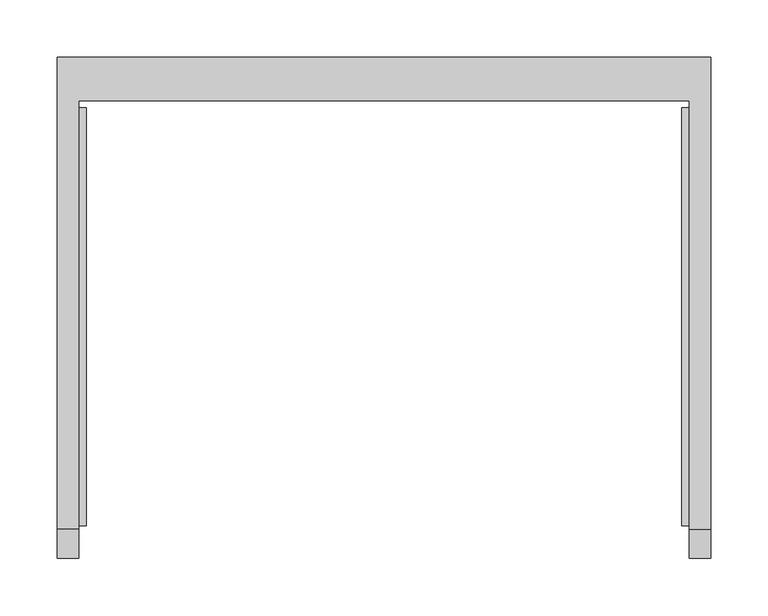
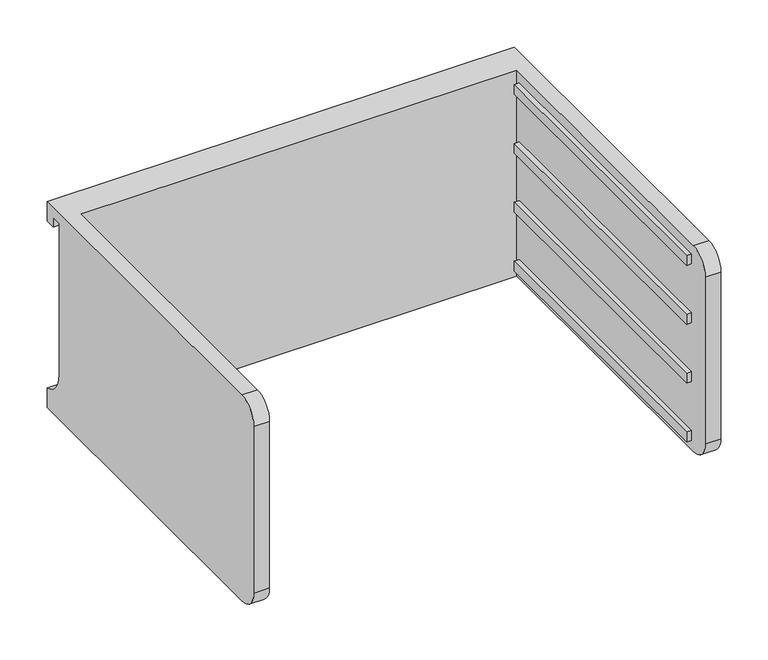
"""IFC4 building model written with IfcOpenShell, lengths in millimetres: furniture geometry, HermanMiller_CoStruc_CO205_CFrame : 10H x 17D x 22W."""

from ifc_helpers import new_model, si_unit, frame, origin, place, context, project, spatial, polyline, circle_curve, outline, extrude, source, transform, mapped, element, save
from ifc_brep_helpers import plane_surface, cylinder_surface, revolved_surface, advanced_brep


def furniture_e68dc01e(model_context):
    return source(origin(), model_context, "Body", "SolidModel", [
        advanced_brep(
        [(-171.7622951, -331.6523397, 800.1), (-171.7622951, -357.0523397, 774.7), (-171.7622951, -357.0523397, 558.8), (-171.7622951, -331.6523397, 533.4), (-171.7622951, 43.0421197, 533.4), (-171.7622951, 43.0421197, 800.1), (-190.8122951, -331.6523397, 533.4), (-190.8122951, -357.0523397, 558.8), (-190.8122951, -357.0523397, 774.7), (-190.8122951, -331.6523397, 800.1), (-190.8122951, 81.0976603, 800.1), (-190.8122951, 81.0976603, 774.7), (-190.8122951, 68.4421197, 774.7), (-190.8122951, 68.4421197, 787.4), (-190.8122951, 55.7421197, 787.4), (-190.8122951, 55.7421197, 591.34502), (-190.8122951, 81.0976603, 558.8), (-190.8122951, 81.0976603, 533.4), (380.6877049, 81.0976603, 533.4), (380.6877049, -331.6523397, 533.4), (361.6377049, -331.6523397, 533.4), (361.6377049, 43.0421197, 533.4), (361.6377049, 43.0421197, 800.1), (361.6377049, -331.6523397, 800.1), (380.6877049, -331.6523397, 800.1), (380.6877049, 81.0976603, 800.1), (380.6877049, 81.0976603, 558.8), (380.6877049, 55.7421197, 591.34502), (380.6877049, 55.7421197, 787.4), (380.6877049, 68.4421197, 787.4), (380.6877049, 68.4421197, 774.7), (380.6877049, 81.0976603, 774.7), (380.6877049, -357.0523397, 774.7), (380.6877049, -357.0523397, 558.8), (361.6377049, -357.0523397, 558.8), (361.6377049, -357.0523397, 774.7)],
        [
            (0, 1, circle_curve(frame((-171.7622951, -331.6523397, 774.7), z_axis=(1.0, 0.0, 0.0), x_axis=(0.0, 0.0, 1.0)), 25.4)),
            (1, 2),
            (2, 3, circle_curve(frame((-171.7622951, -331.6523397, 558.8), z_axis=(1.0, 0.0, 0.0), x_axis=(0.0, 0.0, 1.0)), 25.4)),
            (3, 4),
            (4, 5),
            (5, 0),
            (6, 7, circle_curve(frame((-190.8122951, -331.6523397, 558.8), z_axis=(-1.0, 0.0, 0.0), x_axis=(0.0, 0.0, 1.0)), 25.4)),
            (7, 8),
            (8, 9, circle_curve(frame((-190.8122951, -331.6523397, 774.7), z_axis=(-1.0, 0.0, 0.0), x_axis=(0.0, 0.0, 1.0)), 25.4)),
            (9, 10),
            (10, 11),
            (11, 12),
            (12, 13),
            (13, 14),
            (14, 15),
            (15, 16, circle_curve(frame((-190.8122951, 89.3064162, 591.34502), z_axis=(1.0, 0.0, 0.0), x_axis=(0.0, 0.0, 1.0)), 33.5642965)),
            (16, 17),
            (17, 6),
            (0, 9),
            (8, 1),
            (7, 2),
            (6, 3),
            (17, 18),
            (18, 19),
            (19, 20),
            (20, 21),
            (21, 4),
            (5, 22),
            (22, 23),
            (23, 24),
            (24, 25),
            (25, 10),
            (18, 26),
            (26, 27, circle_curve(frame((380.6877049, 89.3064162, 591.34502), z_axis=(-1.0, 0.0, 0.0), x_axis=(0.0, 0.0, 1.0)), 33.5642965)),
            (27, 28),
            (28, 29),
            (29, 30),
            (30, 31),
            (31, 25),
            (24, 32, circle_curve(frame((380.6877049, -331.6523397, 774.7), z_axis=(1.0, 0.0, 0.0), x_axis=(0.0, 0.0, 1.0)), 25.4)),
            (32, 33),
            (33, 19, circle_curve(frame((380.6877049, -331.6523397, 558.8), z_axis=(1.0, 0.0, 0.0), x_axis=(0.0, 0.0, 1.0)), 25.4)),
            (16, 26),
            (15, 27),
            (14, 28),
            (13, 29),
            (12, 30),
            (11, 31),
            (21, 22),
            (20, 34, circle_curve(frame((361.6377049, -331.6523397, 558.8), z_axis=(-1.0, 0.0, 0.0), x_axis=(0.0, 0.0, 1.0)), 25.4)),
            (34, 35),
            (35, 23, circle_curve(frame((361.6377049, -331.6523397, 774.7), z_axis=(-1.0, 0.0, 0.0), x_axis=(0.0, 0.0, 1.0)), 25.4)),
            (35, 32),
            (34, 33),
        ],
        [
            plane_surface(frame((-171.7622951, -331.6523397, 800.1), z_axis=(1.0, 0.0, 0.0), x_axis=(0.0, -1.0, 0.0))),
            plane_surface(frame((-190.8122951, -331.6523397, 800.1), z_axis=(-1.0, 0.0, 0.0), x_axis=(0.0, 1.0, 0.0))),
            cylinder_surface(frame((-190.8122951, -331.6523397, 774.7), z_axis=(1.0, 0.0, 0.0), x_axis=(0.0, 0.0, 1.0)), 25.4),
            plane_surface(frame((-171.7622951, -357.0523397, 774.7), z_axis=(0.0, -1.0, 0.0), x_axis=(-1.0, 0.0, 0.0))),
            cylinder_surface(frame((-190.8122951, -331.6523397, 558.8), z_axis=(1.0, 0.0, 0.0), x_axis=(0.0, 0.0, 1.0)), 25.4),
            plane_surface(frame((-171.7622951, -331.6523397, 533.4), z_axis=(0.0, 0.0, -1.0), x_axis=(-1.0, 0.0, 0.0))),
            plane_surface(frame((-171.7622951, 43.0421197, 800.1), z_axis=(0.0, 0.0, 1.0), x_axis=(-1.0, 0.0, 0.0))),
            plane_surface(frame((380.6877049, 81.0976603, 558.8), z_axis=(1.0, 0.0, 0.0), x_axis=(0.0, 0.0, 1.0))),
            plane_surface(frame((380.6877049, 81.0976603, 533.4), z_axis=(0.0, 1.0, 0.0), x_axis=(-1.0, 0.0, 0.0))),
            revolved_surface(polyline([(-190.8122951, 89.3064162, 624.9093164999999), (380.68770489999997, 89.3064162, 624.9093164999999)]), (-190.8122951, 89.3064162, 591.34502), (-1.0, 0.0, 0.0)),
            plane_surface(frame((380.6877049, 55.7421197, 591.34502), z_axis=(0.0, 1.0, 0.0), x_axis=(-1.0, 0.0, 0.0))),
            plane_surface(frame((380.6877049, 55.7421197, 787.4), z_axis=(0.0, 0.0, -1.0), x_axis=(-1.0, 0.0, 0.0))),
            plane_surface(frame((380.6877049, 68.4421197, 787.4), z_axis=(0.0, -1.0, 0.0), x_axis=(-1.0, 0.0, 0.0))),
            plane_surface(frame((380.6877049, 68.4421197, 774.7), z_axis=(0.0, 0.0, -1.0), x_axis=(-1.0, 0.0, 0.0))),
            plane_surface(frame((380.6877049, 81.0976603, 774.7), z_axis=(0.0, 1.0, 0.0), x_axis=(-1.0, 0.0, 0.0))),
            plane_surface(frame((380.6877049, 43.0421197, 800.1), z_axis=(0.0, -1.0, 0.0), x_axis=(-1.0, 0.0, 0.0))),
            plane_surface(frame((361.6377049, -331.6523397, 800.1), z_axis=(-1.0, 0.0, 0.0), x_axis=(0.0, 1.0, 0.0))),
            cylinder_surface(frame((361.6377049, -331.6523397, 774.7), z_axis=(1.0, 0.0, 0.0), x_axis=(0.0, 0.0, 1.0)), 25.4),
            plane_surface(frame((380.6877049, -357.0523397, 774.7), z_axis=(0.0, -1.0, 0.0), x_axis=(-1.0, 0.0, 0.0))),
            cylinder_surface(frame((361.6377049, -331.6523397, 558.8), z_axis=(1.0, 0.0, 0.0), x_axis=(0.0, 0.0, 1.0)), 25.4),
        ],
        [
            (0, [[1, 2, 3, 4, 5, 6]]),
            (1, [[7, 8, 9, 10, 11, 12, 13, 14, 15, 16, 17, 18]]),
            (2, [[-1, 19, -9, 20]]),
            (3, [[-2, -20, -8, 21]]),
            (4, [[-3, -21, -7, 22]]),
            (5, [[-4, -22, -18, 23, 24, 25, 26, 27]]),
            (6, [[-6, 28, 29, 30, 31, 32, -10, -19]]),
            (7, [[-24, 33, 34, 35, 36, 37, 38, 39, -31, 40, 41, 42]]),
            (8, [[-33, -23, -17, 43]]),
            (9, [[-34, -43, -16, 44]]),
            (10, [[-35, -44, -15, 45]]),
            (11, [[-36, -45, -14, 46]]),
            (12, [[-37, -46, -13, 47]]),
            (13, [[-38, -47, -12, 48]]),
            (14, [[-39, -48, -11, -32]]),
            (15, [[-5, -27, 49, -28]]),
            (16, [[-29, -49, -26, 50, 51, 52]]),
            (17, [[-40, -30, -52, 53]]),
            (18, [[-41, -53, -51, 54]]),
            (19, [[-42, -54, -50, -25]]),
        ],
    ),
        extrude(outline(polyline([(355.2877049, -328.4773397), (355.2877049, 36.6921197), (361.6377049, 36.6921197), (361.6377049, -328.4773397), (355.2877049, -328.4773397)])), frame((0.0, 0.0, 622.3), z_axis=(0.0, 0.0, 1.0), x_axis=(1.0, 0.0, 0.0)), (0.0, 0.0, 1.0), 12.7),
        extrude(outline(polyline([(355.2877049, -328.4773397), (355.2877049, 36.6921197), (361.6377049, 36.6921197), (361.6377049, -328.4773397), (355.2877049, -328.4773397)])), frame((0.0, 0.0, 698.5), z_axis=(0.0, 0.0, 1.0), x_axis=(1.0, 0.0, 0.0)), (0.0, 0.0, 1.0), 12.7),
        extrude(outline(polyline([(355.2877049, -328.4773397), (355.2877049, 36.6921197), (361.6377049, 36.6921197), (361.6377049, -328.4773397), (355.2877049, -328.4773397)])), frame((0.0, 0.0, 774.7), z_axis=(0.0, 0.0, 1.0), x_axis=(1.0, 0.0, 0.0)), (0.0, 0.0, 1.0), 12.7),
        extrude(outline(polyline([(355.2877049, -328.4773397), (355.2877049, 36.6921197), (361.6377049, 36.6921197), (361.6377049, -328.4773397), (355.2877049, -328.4773397)])), frame((0.0, 0.0, 546.1), z_axis=(0.0, 0.0, 1.0), x_axis=(1.0, 0.0, 0.0)), (0.0, 0.0, 1.0), 12.7),
        extrude(outline(polyline([(-171.7622951, -328.4773397), (-171.7622951, 36.6921197), (-165.4122951, 36.6921197), (-165.4122951, -328.4773397), (-171.7622951, -328.4773397)])), frame((0.0, 0.0, 622.3), z_axis=(0.0, 0.0, 1.0), x_axis=(1.0, 0.0, 0.0)), (0.0, 0.0, 1.0), 12.7),
        extrude(outline(polyline([(-171.7622951, -328.4773397), (-171.7622951, 36.6921197), (-165.4122951, 36.6921197), (-165.4122951, -328.4773397), (-171.7622951, -328.4773397)])), frame((0.0, 0.0, 698.5), z_axis=(0.0, 0.0, 1.0), x_axis=(1.0, 0.0, 0.0)), (0.0, 0.0, 1.0), 12.7),
        extrude(outline(polyline([(-171.7622951, -328.4773397), (-171.7622951, 36.6921197), (-165.4122951, 36.6921197), (-165.4122951, -328.4773397), (-171.7622951, -328.4773397)])), frame((0.0, 0.0, 774.7), z_axis=(0.0, 0.0, 1.0), x_axis=(1.0, 0.0, 0.0)), (0.0, 0.0, 1.0), 12.7),
        extrude(outline(polyline([(-171.7622951, -328.4773397), (-171.7622951, 36.6921197), (-165.4122951, 36.6921197), (-165.4122951, -328.4773397), (-171.7622951, -328.4773397)])), frame((0.0, 0.0, 546.1), z_axis=(0.0, 0.0, 1.0), x_axis=(1.0, 0.0, 0.0)), (0.0, 0.0, 1.0), 12.7),
    ])


if __name__ == "__main__":
    model = new_model("IFC4")
    model_context = context("Model", 3, world=origin())
    ifc_project = project(units=[si_unit("LENGTHUNIT", "METRE", prefix="MILLI")], contexts=[model_context])
    site = spatial("IfcSite", under=ifc_project)
    building = spatial("IfcBuilding", under=site)
    placement = place(None, origin())
    furniture_shape = furniture_e68dc01e(model_context)
    element("IfcFurniture", 1, ObjectType="HermanMiller_CoStruc_CO205_CFrame : 10H x 17D x 22W", at=placement, inside=building, context=model_context, shape_type="MappedRepresentation", body=[
        mapped(furniture_shape, transform((0.0, 0.0, 0.0), x_axis=(1.0, 0.0, 0.0), y_axis=(0.0, 1.0, 0.0), z_axis=(0.0, 0.0, 1.0))),
    ])
    save(model, "model.ifc")
